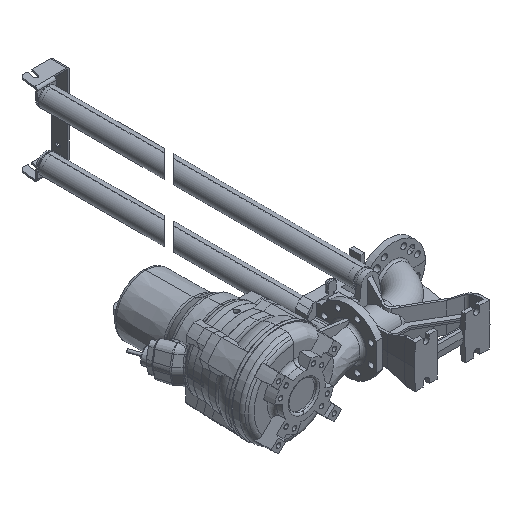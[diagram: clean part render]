
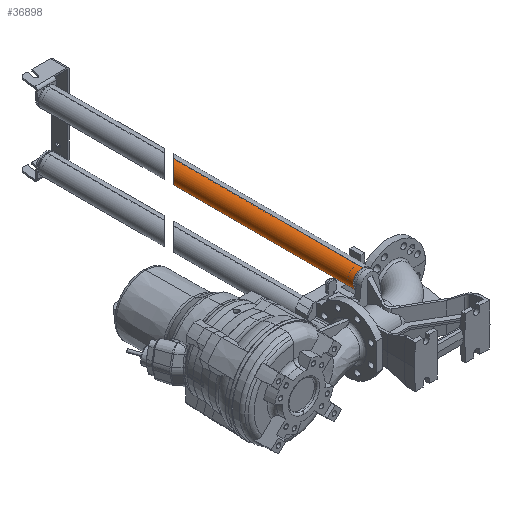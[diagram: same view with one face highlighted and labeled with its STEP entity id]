
A CAD part, isometric view. The second image highlights one B-rep face of the part: STEP entity #36898.
In plain terms, the highlighted cylindrical face has radius 30.15 mm (diameter 60.3 mm), a partial arc.
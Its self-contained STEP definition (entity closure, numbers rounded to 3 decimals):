
#302 = ORIENTED_EDGE ( 'NONE', *, *, #11105, .T. ) ;
#1937 = CARTESIAN_POINT ( 'NONE',  ( 323.5, -66.029, 92.5 ) ) ;
#2032 = DIRECTION ( 'NONE',  ( 0., -1., 0. ) ) ;
#3984 = VECTOR ( 'NONE', #39748, 1000. ) ;
#3990 = CARTESIAN_POINT ( 'NONE',  ( 263.2, 454.23, 62.35 ) ) ;
#4024 = EDGE_CURVE ( 'NONE', #15421, #7302, #24564, .T. ) ;
#4563 = DIRECTION ( 'NONE',  ( 0., -1., 0. ) ) ;
#4744 = CARTESIAN_POINT ( 'NONE',  ( 323.5, 514.53, 62.35 ) ) ;
#6429 = CARTESIAN_POINT ( 'NONE',  ( 263.2, 454.23, 122.65 ) ) ;
#7302 = VERTEX_POINT ( 'NONE', #28068 ) ;
#7401 = FACE_OUTER_BOUND ( 'NONE', #31526, .T. ) ;
#7974 = DIRECTION ( 'NONE',  ( 0., 0., -1. ) ) ;
#8221 = DIRECTION ( 'NONE',  ( 0., 0., -1. ) ) ;
#9482 = CARTESIAN_POINT ( 'NONE',  ( 323.5, 514.53, 122.65 ) ) ;
#11026 = DIRECTION ( 'NONE',  ( 0., -1., 0. ) ) ;
#11105 = EDGE_CURVE ( 'NONE', #35015, #36811, #33305, .T. ) ;
#14097 = CYLINDRICAL_SURFACE ( 'NONE', #25678, 30.15 ) ;
#15421 = VERTEX_POINT ( 'NONE', #18529 ) ;
#16684 = ORIENTED_EDGE ( 'NONE', *, *, #38658, .T. ) ;
#17872 =( BOUNDED_CURVE ( )  B_SPLINE_CURVE ( 3, ( #9482, #6429, #3990, #34240 ),
 .UNSPECIFIED., .F., .F. ) 
 B_SPLINE_CURVE_WITH_KNOTS ( ( 4, 4 ),
 ( 4.712, 7.854 ),
 .UNSPECIFIED. ) 
 CURVE ( )  GEOMETRIC_REPRESENTATION_ITEM ( )  RATIONAL_B_SPLINE_CURVE ( ( 1., 0.333, 0.333, 1. ) ) 
 REPRESENTATION_ITEM ( '' )  );
#18529 = CARTESIAN_POINT ( 'NONE',  ( 323.5, 514.53, 122.65 ) ) ;
#18550 = CARTESIAN_POINT ( 'NONE',  ( 323.5, -66.029, 122.65 ) ) ;
#19323 = EDGE_CURVE ( 'NONE', #7302, #36811, #22914, .T. ) ;
#22914 = CIRCLE ( 'NONE', #28031, 30.15 ) ;
#24167 = VECTOR ( 'NONE', #2032, 1000. ) ;
#24564 = LINE ( 'NONE', #18550, #3984 ) ;
#25678 = AXIS2_PLACEMENT_3D ( 'NONE', #1937, #4563, #8221 ) ;
#28031 = AXIS2_PLACEMENT_3D ( 'NONE', #29113, #11026, #7974 ) ;
#28068 = CARTESIAN_POINT ( 'NONE',  ( 323.5, -86.029, 122.65 ) ) ;
#29113 = CARTESIAN_POINT ( 'NONE',  ( 323.5, -86.029, 92.5 ) ) ;
#29455 = CARTESIAN_POINT ( 'NONE',  ( 323.5, -66.029, 62.35 ) ) ;
#31526 = EDGE_LOOP ( 'NONE', ( #39345, #16684, #302, #37794 ) ) ;
#32582 = CARTESIAN_POINT ( 'NONE',  ( 323.5, -86.029, 62.35 ) ) ;
#33305 = LINE ( 'NONE', #29455, #24167 ) ;
#34240 = CARTESIAN_POINT ( 'NONE',  ( 323.5, 514.53, 62.35 ) ) ;
#35015 = VERTEX_POINT ( 'NONE', #4744 ) ;
#36811 = VERTEX_POINT ( 'NONE', #32582 ) ;
#36898 = ADVANCED_FACE ( 'NONE', ( #7401 ), #14097, .T. ) ;
#37794 = ORIENTED_EDGE ( 'NONE', *, *, #19323, .F. ) ;
#38658 = EDGE_CURVE ( 'NONE', #15421, #35015, #17872, .T. ) ;
#39345 = ORIENTED_EDGE ( 'NONE', *, *, #4024, .F. ) ;
#39748 = DIRECTION ( 'NONE',  ( 0., -1., 0. ) ) ;
